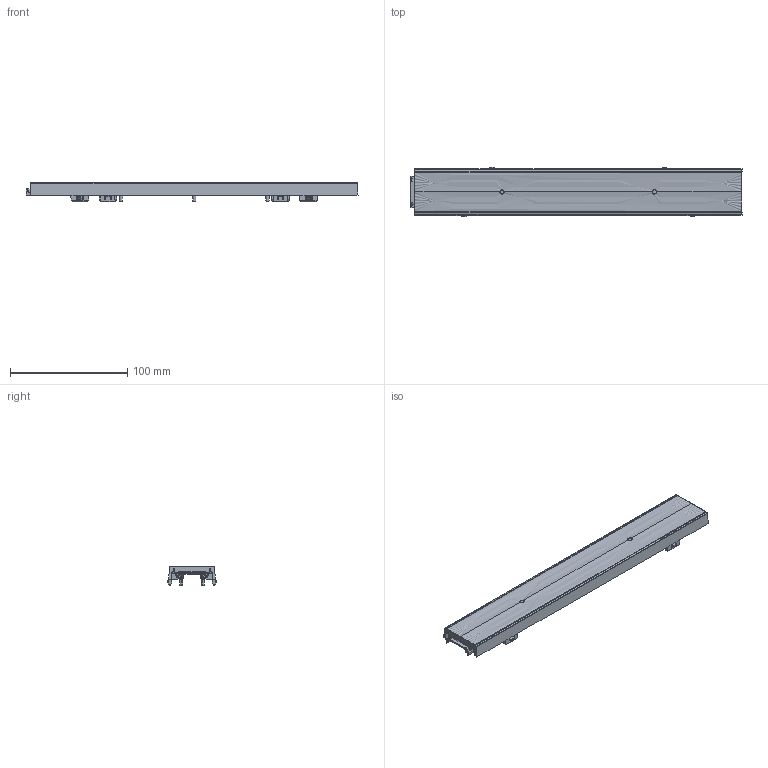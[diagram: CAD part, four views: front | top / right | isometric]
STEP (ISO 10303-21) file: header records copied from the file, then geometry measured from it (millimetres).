
FILE_DESCRIPTION(('CAx-IF Rec.Pracs.---Model Styling and Organization---1.2---2011-12-15','CAx-IF Rec.Pracs.---Geometric and Assembly Validation Properties---4.1---2014-06-16','CAx-IF Rec.Pracs.---PMI Polyline Presentation---2.0---2013-05-24'),'2;1');
FILE_NAME('021Y719Y02.stp','2019-12-12T13:51:22+01:00',(''),(''),'STEP Interface 4.3 by CT CoreTechnologie','3D_Evolution4.3 by CT CoreTechnologie','');
FILE_SCHEMA(('AP203_CONFIGURATION_CONTROLLED_3D_DESIGN_OF_MECHANICAL_PARTS_AND_ASSEMBLIES_MIM_LF'));
Length unit declared in the file: millimetre
Products named in the file (1): 021Y719Y02
Bounding box: 283.19 x 42.4 x 16.9 mm (x, y, z)
Volume: 61954.1 mm3; surface area: 33677.1 mm2
Topology: 1 solids, 1 shells, 702 faces, 1874 edges, 1166 vertices
Faces by surface type: plane 303, bspline 243, cylinder 156
Entity records: 63597 total; most frequent: CARTESIAN_POINT 21189, ORIENTED_EDGE 3684, PROPERTY_DEFINITION 3368, DIRECTION 3252, EDGE_CURVE 1842, SHAPE_REPRESENTATION 1685, SHAPE_DEFINITION_REPRESENTATION 1685, REPRESENTATION 1684
